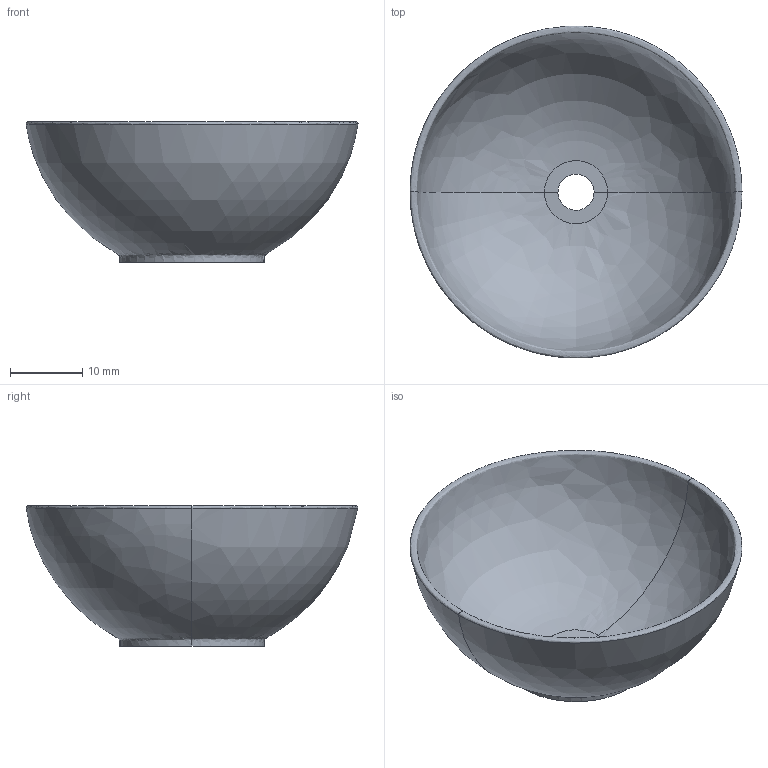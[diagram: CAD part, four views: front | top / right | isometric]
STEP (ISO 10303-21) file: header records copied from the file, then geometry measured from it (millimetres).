
FILE_DESCRIPTION(/* description */ (''),/* implementation_level */ '2;1');
FILE_NAME(/* name */ 'FLAVIA~1',/* time_stamp */ '2019-12-19T11:43:47+01:00',/* author */ (''),/* organization */ (''),/* preprocessor_version */ 'ST-DEVELOPER v16.5',/* originating_system */ '',/* authorisation */ '');
FILE_SCHEMA (('AUTOMOTIVE_DESIGN'));
Length unit declared in the file: millimetre
Products named in the file (1): Document
Bounding box: 45.91 x 45.87 x 19.4 mm (x, y, z)
Volume: 2484.4 mm3; surface area: 5815.2 mm2
Topology: 1 solids, 1 shells, 12 faces, 24 edges, 12 vertices
Faces by surface type: bspline 12
Entity records: 597 total; most frequent: CARTESIAN_POINT 446, ORIENTED_EDGE 48, EDGE_CURVE 24, ADVANCED_FACE 12, FACE_OUTER_BOUND 12, EDGE_LOOP 12, VERTEX_POINT 12, B_SPLINE_CURVE_WITH_KNOTS 6
